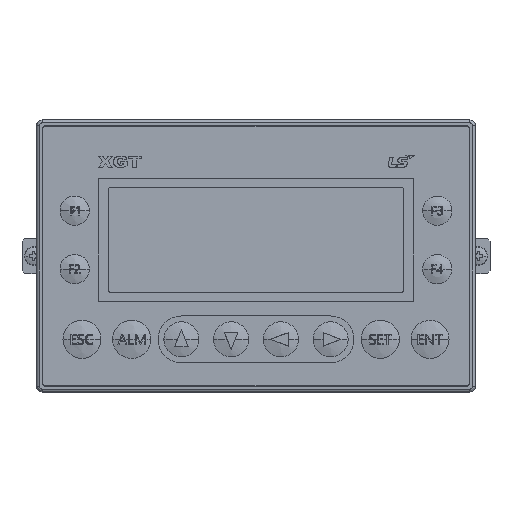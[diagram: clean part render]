
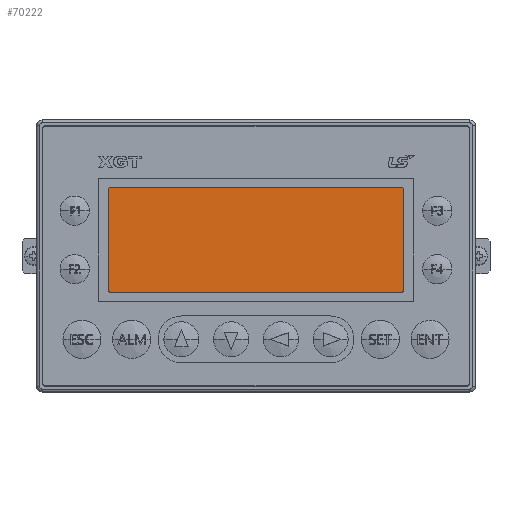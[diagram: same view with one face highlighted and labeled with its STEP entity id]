
A CAD part, top view. The second image highlights one B-rep face of the part: STEP entity #70222.
In plain terms, the highlighted planar face has unit normal (0, 0, 1).
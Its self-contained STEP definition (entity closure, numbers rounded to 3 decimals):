
#11135=CARTESIAN_POINT('',(-49.5,22.5,24.028));
#11136=DIRECTION('',(0.,0.,-1.));
#11137=DIRECTION('',(-1.,0.,0.));
#11138=AXIS2_PLACEMENT_3D('',#11135,#11136,#11137);
#11140=DIRECTION('',(1.,0.,0.));
#11141=VECTOR('',#11140,99.);
#11142=CARTESIAN_POINT('',(-49.5,23.5,24.028));
#11143=LINE('',#11142,#11141);
#11144=CARTESIAN_POINT('',(49.5,22.5,24.028));
#11145=DIRECTION('',(0.,0.,-1.));
#11146=DIRECTION('',(0.,1.,0.));
#11147=AXIS2_PLACEMENT_3D('',#11144,#11145,#11146);
#11149=DIRECTION('',(0.,-1.,0.));
#11150=VECTOR('',#11149,34.);
#11151=CARTESIAN_POINT('',(50.5,22.5,24.028));
#11152=LINE('',#11151,#11150);
#11153=CARTESIAN_POINT('',(49.5,-11.5,24.028));
#11154=DIRECTION('',(0.,0.,-1.));
#11155=DIRECTION('',(1.,0.,0.));
#11156=AXIS2_PLACEMENT_3D('',#11153,#11154,#11155);
#11158=DIRECTION('',(-1.,0.,0.));
#11159=VECTOR('',#11158,99.);
#11160=CARTESIAN_POINT('',(49.5,-12.5,24.028));
#11161=LINE('',#11160,#11159);
#11162=CARTESIAN_POINT('',(-49.5,-11.5,24.028));
#11163=DIRECTION('',(0.,0.,-1.));
#11164=DIRECTION('',(0.,-1.,0.));
#11165=AXIS2_PLACEMENT_3D('',#11162,#11163,#11164);
#11167=DIRECTION('',(0.,1.,0.));
#11168=VECTOR('',#11167,34.);
#11169=CARTESIAN_POINT('',(-50.5,-11.5,24.028));
#11170=LINE('',#11169,#11168);
#47016=CARTESIAN_POINT('',(-50.5,22.5,24.028));
#47017=VERTEX_POINT('',#47016);
#47018=CARTESIAN_POINT('',(-50.5,-11.5,24.028));
#47019=VERTEX_POINT('',#47018);
#47020=CARTESIAN_POINT('',(-49.5,23.5,24.028));
#47021=VERTEX_POINT('',#47020);
#47022=CARTESIAN_POINT('',(49.5,23.5,24.028));
#47023=VERTEX_POINT('',#47022);
#47024=CARTESIAN_POINT('',(50.5,22.5,24.028));
#47025=VERTEX_POINT('',#47024);
#47026=CARTESIAN_POINT('',(50.5,-11.5,24.028));
#47027=VERTEX_POINT('',#47026);
#47028=CARTESIAN_POINT('',(49.5,-12.5,24.028));
#47029=VERTEX_POINT('',#47028);
#47030=CARTESIAN_POINT('',(-49.5,-12.5,24.028));
#47031=VERTEX_POINT('',#47030);
#70201=CARTESIAN_POINT('',(0.,0.,24.028));
#70202=DIRECTION('',(0.,0.,1.));
#70203=DIRECTION('',(1.,0.,0.));
#70204=AXIS2_PLACEMENT_3D('',#70201,#70202,#70203);
#70205=PLANE('',#70204);
#70206=ORIENTED_EDGE('',*,*,#70185,.T.);
#70208=ORIENTED_EDGE('',*,*,#70207,.T.);
#70210=ORIENTED_EDGE('',*,*,#70209,.T.);
#70212=ORIENTED_EDGE('',*,*,#70211,.T.);
#70214=ORIENTED_EDGE('',*,*,#70213,.T.);
#70216=ORIENTED_EDGE('',*,*,#70215,.T.);
#70218=ORIENTED_EDGE('',*,*,#70217,.T.);
#70219=ORIENTED_EDGE('',*,*,#70165,.T.);
#70220=EDGE_LOOP('',(#70206,#70208,#70210,#70212,#70214,#70216,#70218,#70219));
#70221=FACE_OUTER_BOUND('',#70220,.F.);
#70222=ADVANCED_FACE('',(#70221),#70205,.T.);
#11139=CIRCLE('',#11138,1.);
#11148=CIRCLE('',#11147,1.);
#11157=CIRCLE('',#11156,1.);
#11166=CIRCLE('',#11165,1.);
#70165=EDGE_CURVE('',#47019,#47017,#11170,.T.);
#70185=EDGE_CURVE('',#47017,#47021,#11139,.T.);
#70207=EDGE_CURVE('',#47021,#47023,#11143,.T.);
#70209=EDGE_CURVE('',#47023,#47025,#11148,.T.);
#70211=EDGE_CURVE('',#47025,#47027,#11152,.T.);
#70213=EDGE_CURVE('',#47027,#47029,#11157,.T.);
#70215=EDGE_CURVE('',#47029,#47031,#11161,.T.);
#70217=EDGE_CURVE('',#47031,#47019,#11166,.T.);
